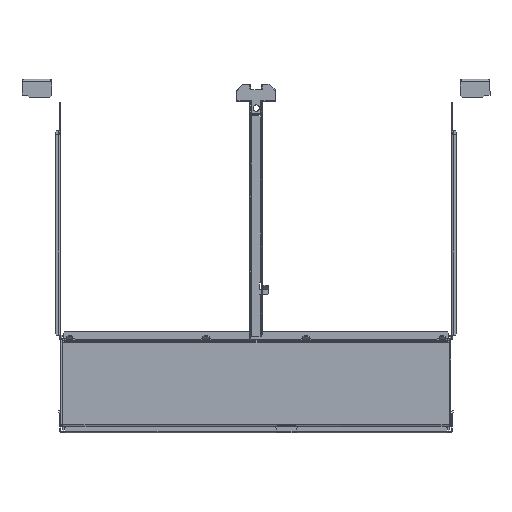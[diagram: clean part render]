
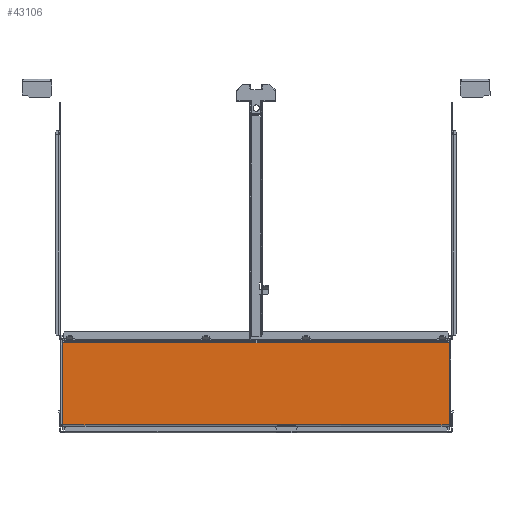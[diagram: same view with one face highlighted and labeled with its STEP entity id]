
A CAD part, front view. The second image highlights one B-rep face of the part: STEP entity #43106.
In plain terms, the highlighted planar face has unit normal (0, -1, 0).
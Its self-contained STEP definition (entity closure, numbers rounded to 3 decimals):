
#30121=CARTESIAN_POINT(' ',(-245.,-70.,0.6));
#30122=VERTEX_POINT(' ',#30121);
#33231=CARTESIAN_POINT(' ',(27.,-70.,0.6));
#33236=DIRECTION(' ',(-1.,0.,0.));
#33241=VECTOR(' ',#33236,1.);
#33246=LINE('',#33231,#33241);
#33251=CARTESIAN_POINT(' ',(27.,-70.,0.6));
#33252=VERTEX_POINT(' ',#33251);
#33256=EDGE_CURVE(' ',#33252,#30122,#33246,.T.);
#33376=CARTESIAN_POINT(' ',(50.,-70.,0.6));
#33377=VERTEX_POINT(' ',#33376);
#33431=CARTESIAN_POINT(' ',(245.,-70.,0.6));
#33432=VERTEX_POINT(' ',#33431);
#33446=CARTESIAN_POINT(' ',(245.,-70.,0.6));
#33451=DIRECTION(' ',(-1.,0.,0.));
#33456=VECTOR(' ',#33451,1.);
#33461=LINE('',#33446,#33456);
#33466=EDGE_CURVE(' ',#33432,#33377,#33461,.T.);
#34806=CARTESIAN_POINT(' ',(-245.,-70.,0.6));
#34811=DIRECTION(' ',(0.,0.,1.));
#34816=VECTOR(' ',#34811,1.);
#34821=LINE('',#34806,#34816);
#34826=CARTESIAN_POINT(' ',(-245.,-70.,104.4));
#34827=VERTEX_POINT(' ',#34826);
#34831=EDGE_CURVE(' ',#30122,#34827,#34821,.T.);
#42891=DIRECTION(' ',(-0.,-1.,0.));
#42896=CARTESIAN_POINT(' ',(-245.,-70.,0.6));
#42901=DIRECTION(' ',(1.,0.,-0.));
#42906=AXIS2_PLACEMENT_3D(' ',#42896,#42891,#42901);
#42911=PLANE('NONE',#42906);
#42916=CARTESIAN_POINT(' ',(27.,-70.,1.));
#42921=DIRECTION(' ',(0.,0.,-1.));
#42926=VECTOR(' ',#42921,1.);
#42931=LINE('',#42916,#42926);
#42936=CARTESIAN_POINT(' ',(27.,-70.,1.));
#42937=VERTEX_POINT(' ',#42936);
#42941=EDGE_CURVE(' ',#42937,#33252,#42931,.T.);
#42946=ORIENTED_EDGE(' ',*,*,#42941,.F.);
#42951=CARTESIAN_POINT(' ',(50.,-70.,1.));
#42956=DIRECTION(' ',(-1.,0.,0.));
#42961=VECTOR(' ',#42956,1.);
#42966=LINE('',#42951,#42961);
#42971=CARTESIAN_POINT(' ',(50.,-70.,1.));
#42972=VERTEX_POINT(' ',#42971);
#42976=EDGE_CURVE(' ',#42972,#42937,#42966,.T.);
#42981=ORIENTED_EDGE(' ',*,*,#42976,.F.);
#42986=CARTESIAN_POINT(' ',(50.,-70.,1.));
#42991=DIRECTION(' ',(0.,0.,-1.));
#42996=VECTOR(' ',#42991,1.);
#43001=LINE('',#42986,#42996);
#43006=EDGE_CURVE(' ',#42972,#33377,#43001,.T.);
#43011=ORIENTED_EDGE(' ',*,*,#43006,.T.);
#43016=ORIENTED_EDGE(' ',*,*,#33466,.F.);
#43021=CARTESIAN_POINT(' ',(245.,-70.,0.6));
#43026=DIRECTION(' ',(0.,0.,1.));
#43031=VECTOR(' ',#43026,1.);
#43036=LINE('',#43021,#43031);
#43041=CARTESIAN_POINT(' ',(245.,-70.,104.4));
#43042=VERTEX_POINT(' ',#43041);
#43046=EDGE_CURVE(' ',#33432,#43042,#43036,.T.);
#43051=ORIENTED_EDGE(' ',*,*,#43046,.T.);
#43056=CARTESIAN_POINT(' ',(245.,-70.,104.4));
#43061=DIRECTION(' ',(-1.,0.,0.));
#43066=VECTOR(' ',#43061,1.);
#43071=LINE('',#43056,#43066);
#43076=EDGE_CURVE(' ',#43042,#34827,#43071,.T.);
#43081=ORIENTED_EDGE(' ',*,*,#43076,.T.);
#43086=ORIENTED_EDGE(' ',*,*,#34831,.F.);
#43091=ORIENTED_EDGE(' ',*,*,#33256,.F.);
#43096=EDGE_LOOP(' ',(#42946,#42981,#43011,#43016,#43051,#43081,#43086,#43091));
#43101=FACE_OUTER_BOUND(' ',#43096,.T.);
#43106=ADVANCED_FACE('NONE',(#43101),#42911,.T.);
